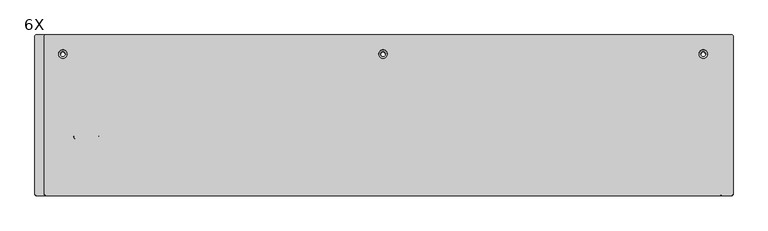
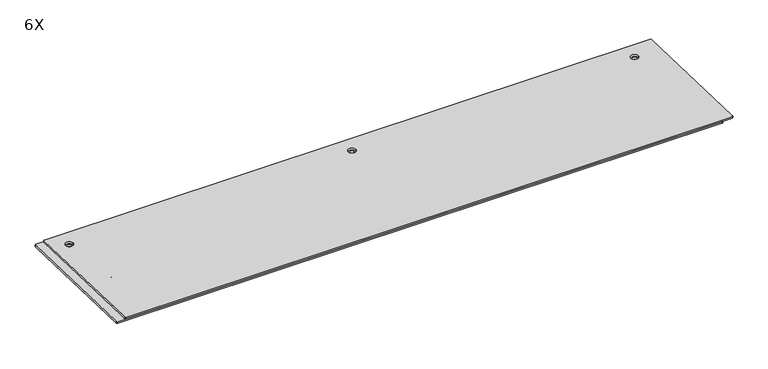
"""IFC4 building model written with IfcOpenShell, lengths in millimetres: proxy geometry, ML PhotonRoof Flat Anthracite Premium : 6X."""

from ifc_helpers import new_model, si_unit, point, frame, frame_2d, origin, place, context, project, spatial, polyline, circle_curve, trimmed, segment, composite_curve, outline, extrude, source, transform, mapped, element, save


def proxy_6x_53d5dd8c(model_context):
    return source(origin(), model_context, "Body", "SweptSolid", [
        extrude(outline(composite_curve([segment(trimmed(circle_curve(frame_2d((1738.0732143, -3.0)), 3.0), [point((1738.0732143, 0.0))], [point((1741.0732143, -3.0))], False, "CARTESIAN"), True, "CONTINUOUS"), segment(polyline([(1741.0732143, -3.0), (1741.0732143, -417.0)]), True, "CONTINUOUS"), segment(trimmed(circle_curve(frame_2d((1738.0732143, -417.0)), 3.0), [point((1741.0732143, -417.0))], [point((1738.0732143, -420.0))], False, "CARTESIAN"), True, "CONTINUOUS"), segment(polyline([(1738.0732143, -420.0), (-55.9267857, -420.0)]), True, "CONTINUOUS"), segment(trimmed(circle_curve(frame_2d((-55.9267857, -417.0)), 3.0), [point((-55.9267857, -420.0))], [point((-58.9267857, -417.0))], False, "CARTESIAN"), True, "CONTINUOUS"), segment(polyline([(-58.9267857, -417.0), (-58.9267857, -3.0)]), True, "CONTINUOUS"), segment(trimmed(circle_curve(frame_2d((-55.9267857, -3.0)), 3.0), [point((-58.9267857, -3.0))], [point((-55.9267857, 0.0))], False, "CARTESIAN"), True, "CONTINUOUS"), segment(polyline([(-55.9267857, 0.0), (1738.0732143, 0.0)]), True, "CONTINUOUS")], self_intersect=False), holes=[composite_curve([segment(trimmed(circle_curve(frame_2d((-10.9267857, -50.0)), 11.0), [point((-21.9267857, -50.0))], [point((0.0732143, -50.0))], True, "CARTESIAN"), True, "CONTINUOUS"), segment(trimmed(circle_curve(frame_2d((-10.9267857, -50.0)), 11.0), [point((0.0732143, -50.0))], [point((-21.9267857, -50.0))], True, "CARTESIAN"), True, "CONTINUOUS")], self_intersect=False), composite_curve([segment(trimmed(circle_curve(frame_2d((826.0389481, -50.0)), 11.0), [point((815.0389481, -50.0))], [point((837.0389481, -50.0))], True, "CARTESIAN"), True, "CONTINUOUS"), segment(trimmed(circle_curve(frame_2d((826.0389481, -50.0)), 11.0), [point((837.0389481, -50.0))], [point((815.0389481, -50.0))], True, "CARTESIAN"), True, "CONTINUOUS")], self_intersect=False), composite_curve([segment(trimmed(circle_curve(frame_2d((1663.2264481, -50.0)), 11.0), [point((1652.2264481, -50.0))], [point((1674.2264481, -50.0))], True, "CARTESIAN"), True, "CONTINUOUS"), segment(trimmed(circle_curve(frame_2d((1663.2264481, -50.0)), 11.0), [point((1674.2264481, -50.0))], [point((1652.2264481, -50.0))], True, "CARTESIAN"), True, "CONTINUOUS")], self_intersect=False)]), frame((-91.0732143, 50.1323897, 3.4268794), z_axis=(0.0, 0.031413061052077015, 0.9995064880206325), x_axis=(1.0, 0.0, 0.0)), (0.0, 0.0, 1.0), 5.0),
        extrude(outline(composite_curve([segment(trimmed(circle_curve(frame_2d((1827.0, -3.0)), 3.0), [point((1827.0, 0.0))], [point((1830.0, -3.0))], False, "CARTESIAN"), True, "CONTINUOUS"), segment(polyline([(1830.0, -3.0), (1830.0, -417.0)]), True, "CONTINUOUS"), segment(trimmed(circle_curve(frame_2d((1827.0, -417.0)), 3.0), [point((1830.0, -417.0))], [point((1827.0, -420.0))], False, "CARTESIAN"), True, "CONTINUOUS"), segment(polyline([(1827.0, -420.0), (38.0, -420.0)]), True, "CONTINUOUS"), segment(trimmed(circle_curve(frame_2d((38.0, -417.0)), 3.0), [point((38.0, -420.0))], [point((35.0, -417.0))], False, "CARTESIAN"), True, "CONTINUOUS"), segment(polyline([(35.0, -417.0), (35.0, -3.0)]), True, "CONTINUOUS"), segment(trimmed(circle_curve(frame_2d((38.0, -3.0)), 3.0), [point((35.0, -3.0))], [point((38.0, 0.0))], False, "CARTESIAN"), True, "CONTINUOUS"), segment(polyline([(38.0, 0.0), (1827.0, 0.0)]), True, "CONTINUOUS")], self_intersect=False), holes=[composite_curve([segment(trimmed(circle_curve(frame_2d((108.0, -50.0)), 6.0), [point((102.0, -50.0))], [point((114.0, -50.0))], True, "CARTESIAN"), True, "CONTINUOUS"), segment(trimmed(circle_curve(frame_2d((108.0, -50.0)), 6.0), [point((114.0, -50.0))], [point((102.0, -50.0))], True, "CARTESIAN"), True, "CONTINUOUS")], self_intersect=False), composite_curve([segment(trimmed(circle_curve(frame_2d((1782.0, -50.0)), 6.0), [point((1776.0, -50.0))], [point((1788.0, -50.0))], True, "CARTESIAN"), True, "CONTINUOUS"), segment(trimmed(circle_curve(frame_2d((1782.0, -50.0)), 6.0), [point((1788.0, -50.0))], [point((1776.0, -50.0))], True, "CARTESIAN"), True, "CONTINUOUS")], self_intersect=False), composite_curve([segment(trimmed(circle_curve(frame_2d((945.0, -50.0)), 6.0), [point((939.0, -50.0))], [point((951.0, -50.0))], True, "CARTESIAN"), True, "CONTINUOUS"), segment(trimmed(circle_curve(frame_2d((945.0, -50.0)), 6.0), [point((951.0, -50.0))], [point((939.0, -50.0))], True, "CARTESIAN"), True, "CONTINUOUS")], self_intersect=False)]), frame((-210.0, 49.9753244, -1.5706531), z_axis=(0.0, 0.031413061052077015, 0.9995064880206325), x_axis=(1.0, 0.0, 0.0)), (0.0, 0.0, 1.0), 5.0),
        extrude(outline(composite_curve([segment(polyline([(-9.0, -9.0), (-9.0, 39.0)]), True, "CONTINUOUS"), segment(trimmed(circle_curve(frame_2d((0.0, 39.0)), 9.0), [point((-9.0, 39.0))], [point((0.0, 48.0))], False, "CARTESIAN"), True, "CONTINUOUS"), segment(polyline([(0.0, 48.0), (48.0, 48.0)]), True, "CONTINUOUS"), segment(trimmed(circle_curve(frame_2d((48.0, 39.0)), 9.0), [point((48.0, 48.0))], [point((57.0, 39.0))], False, "CARTESIAN"), True, "CONTINUOUS"), segment(polyline([(57.0, 39.0), (57.0, -9.0)]), True, "CONTINUOUS"), segment(trimmed(circle_curve(frame_2d((48.0, -9.0)), 9.0), [point((57.0, -9.0))], [point((48.0, -18.0))], False, "CARTESIAN"), True, "CONTINUOUS"), segment(polyline([(48.0, -18.0), (0.0, -18.0)]), True, "CONTINUOUS"), segment(trimmed(circle_curve(frame_2d((0.0, -9.0)), 9.0), [point((0.0, -18.0))], [point((-9.0, -9.0))], False, "CARTESIAN"), True, "CONTINUOUS")], self_intersect=False)), frame((-26.0, -215.5221561, -13.2363216), z_axis=(0.0, 0.031413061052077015, 0.9995064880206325), x_axis=(0.0, 0.9995064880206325, -0.031413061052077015)), (0.0, 0.0, 1.0), 20.0),
        extrude(outline(polyline([(44.977792, -1.4135877), (44.9149658, -3.4126007), (27.9233555, -2.8785787), (27.3579204, -20.8696955), (24.359401, -20.7754563), (24.9876622, -0.7853265), (44.977792, -1.4135877)])), frame((710.0, 0.0, 0.0), z_axis=(1.0, 0.0, 0.0), x_axis=(0.0, 1.0, 0.0)), (0.0, 0.0, 1.0), 50.0),
        extrude(outline(polyline([(44.977792, -1.4135877), (44.9149658, -3.4126007), (27.9233555, -2.8785787), (27.3579204, -20.8696955), (24.359401, -20.7754563), (24.9876622, -0.7853265), (44.977792, -1.4135877)])), frame((1502.0, 0.0, 0.0), z_axis=(1.0, 0.0, 0.0), x_axis=(0.0, 1.0, 0.0)), (0.0, 0.0, 1.0), 50.0),
        extrude(outline(polyline([(44.977792, -1.4135877), (44.9149658, -3.4126007), (27.9233555, -2.8785787), (27.3579204, -20.8696955), (24.359401, -20.7754563), (24.9876622, -0.7853265), (44.977792, -1.4135877)])), frame((-77.0, 0.0, 0.0), z_axis=(1.0, 0.0, 0.0), x_axis=(0.0, 1.0, 0.0)), (0.0, 0.0, 1.0), 50.0),
    ])


if __name__ == "__main__":
    model = new_model("IFC4")
    model_context = context("Model", 3, world=origin())
    ifc_project = project(units=[si_unit("LENGTHUNIT", "METRE", prefix="MILLI")], contexts=[model_context])
    site = spatial("IfcSite", under=ifc_project)
    building = spatial("IfcBuilding", under=site)
    placement = place(None, origin())
    proxy_6x_shape = proxy_6x_53d5dd8c(model_context)
    element("IfcBuildingElementProxy", 1, Name="ML PhotonRoof Flat Anthracite Premium : 6X", ObjectType="ML PhotonRoof Flat Anthracite Premium : 6X", at=placement, inside=building, context=model_context, shape_type="MappedRepresentation", body=[
        mapped(proxy_6x_shape, transform((0.0, 0.0, 0.0), x_axis=(1.0, 0.0, 0.0), y_axis=(0.0, 1.0, 0.0), z_axis=(0.0, 0.0, 1.0))),
    ])
    save(model, "model.ifc")
